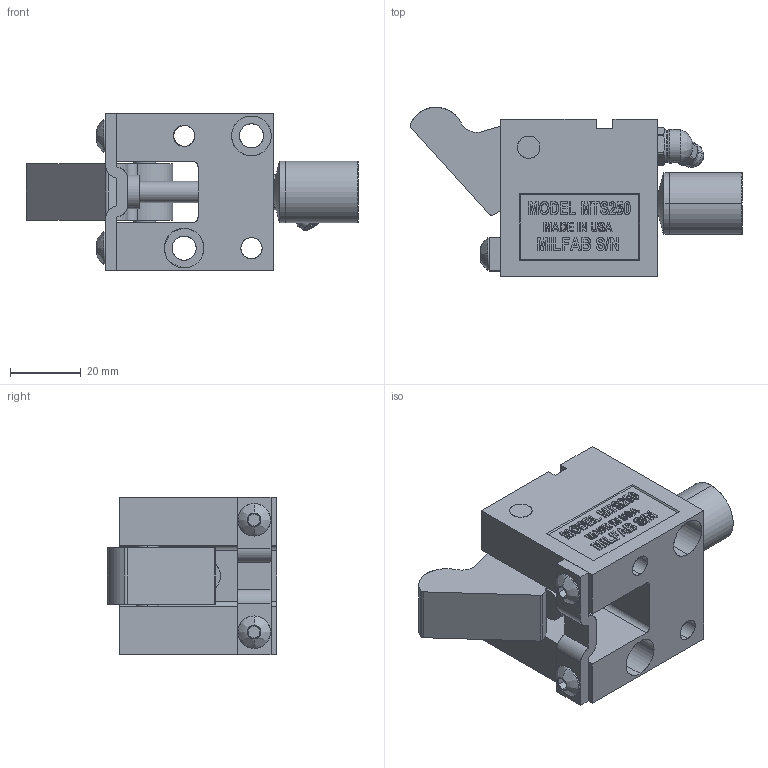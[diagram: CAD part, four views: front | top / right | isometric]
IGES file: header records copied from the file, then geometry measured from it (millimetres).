
Start section: SolidWorks IGES file using analytic representation for surfaces
Global section: file name: Y:\METRIC With OFFSETRIGGER\TOPMOUNT\MTS25045\OPEN\MTS25045-O.IGS; native system: SolidWorks 2006 by SolidWorks Corporation; preprocessor: SolidWorks 2006 by SolidWorks Corporation; author: Jim; date: 090121.175604; units: inch
Bounding box: 93.85 x 47.85 x 44.45 mm (x, y, z)
Surface area: 29280.3 mm2 (no closed solid volume)
Topology: 0 solids, 0 shells, 594 faces, 7043 edges, 7039 vertices
Faces by surface type: bspline 472, revolution 122
